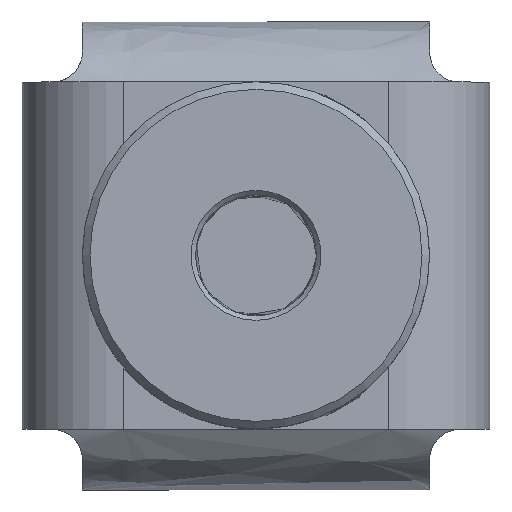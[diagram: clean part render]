
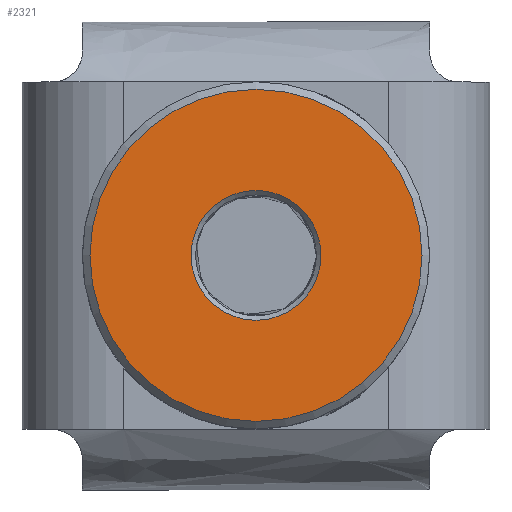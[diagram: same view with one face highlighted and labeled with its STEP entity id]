
A CAD part, top view. The second image highlights one B-rep face of the part: STEP entity #2321.
In plain terms, the highlighted planar face has unit normal (0, 0, 1).
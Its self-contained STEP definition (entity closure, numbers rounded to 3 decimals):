
#2279=CARTESIAN_POINT('',(9.526,-5.5,18.45));
#2280=VERTEX_POINT('',#2279);
#2281=CARTESIAN_POINT('',(0.,0.,18.45));
#2282=DIRECTION('',(0.0,0.0,-1.));
#2283=DIRECTION('',(-0.866,0.5,0.0));
#2284=AXIS2_PLACEMENT_3D('',#2281,#2282,#2283);
#2285=CIRCLE('',#2284,11.0);
#2286=EDGE_CURVE('',#2280,#2280,#2285,.T.);
#2302=CARTESIAN_POINT('',(0.,0.,18.45));
#2303=DIRECTION('',(0.0,0.0,-1.0));
#2304=DIRECTION('',(-0.866,0.5,0.0));
#2305=AXIS2_PLACEMENT_3D('',#2302,#2303,#2304);
#2306=PLANE('',#2305);
#2307=ORIENTED_EDGE('',*,*,#2286,.F.);
#2308=EDGE_LOOP('',(#2307));
#2309=FACE_OUTER_BOUND('',#2308,.T.);
#2310=CARTESIAN_POINT('',(3.724,-2.15,18.45));
#2311=VERTEX_POINT('',#2310);
#2312=CARTESIAN_POINT('',(0.,0.,18.45));
#2313=DIRECTION('',(0.0,0.0,1.));
#2314=DIRECTION('',(-0.866,0.5,0.0));
#2315=AXIS2_PLACEMENT_3D('',#2312,#2313,#2314);
#2316=CIRCLE('',#2315,4.3);
#2317=EDGE_CURVE('',#2311,#2311,#2316,.T.);
#2318=ORIENTED_EDGE('',*,*,#2317,.F.);
#2319=EDGE_LOOP('',(#2318));
#2320=FACE_BOUND('',#2319,.T.);
#2321=ADVANCED_FACE('',(#2309,#2320),#2306,.F.);
